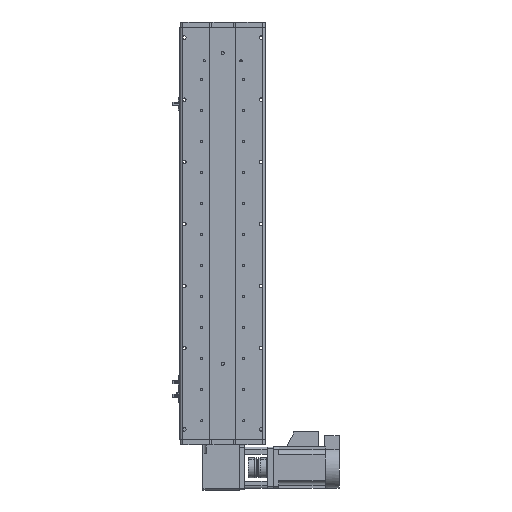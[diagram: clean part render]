
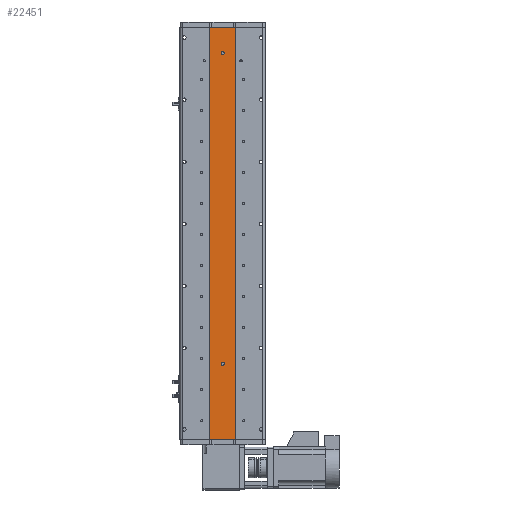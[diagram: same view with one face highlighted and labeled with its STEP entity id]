
A CAD part, front view. The second image highlights one B-rep face of the part: STEP entity #22451.
In plain terms, the highlighted planar face has unit normal (0, -1, 0).
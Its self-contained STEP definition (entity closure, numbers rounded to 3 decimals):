
#449 = DIRECTION ( 'NONE',  ( 0., 0., -1. ) ) ;
#1054 = CARTESIAN_POINT ( 'NONE',  ( 0., 1., 345.5 ) ) ;
#2542 = CARTESIAN_POINT ( 'NONE',  ( 0., 1., -251.5 ) ) ;
#2617 = FACE_BOUND ( 'NONE', #10831, .T. ) ;
#4003 = CARTESIAN_POINT ( 'NONE',  ( -25., 1., 398.5 ) ) ;
#4363 = EDGE_CURVE ( 'NONE', #16270, #6937, #39235, .T. ) ;
#4902 = CARTESIAN_POINT ( 'NONE',  ( 25., 1., -398.5 ) ) ;
#5575 = CARTESIAN_POINT ( 'NONE',  ( 25., 1., 398.5 ) ) ;
#6126 = DIRECTION ( 'NONE',  ( 0., 0., -1. ) ) ;
#6345 = DIRECTION ( 'NONE',  ( 0., 0., -1. ) ) ;
#6937 = VERTEX_POINT ( 'NONE', #36622 ) ;
#7306 = CARTESIAN_POINT ( 'NONE',  ( 0., 1., -254.5 ) ) ;
#7452 = ORIENTED_EDGE ( 'NONE', *, *, #25047, .F. ) ;
#7645 = AXIS2_PLACEMENT_3D ( 'NONE', #2542, #27609, #6126 ) ;
#7833 = CIRCLE ( 'NONE', #27038, 3. ) ;
#8660 = DIRECTION ( 'NONE',  ( 1., 0., 0. ) ) ;
#8971 = LINE ( 'NONE', #40550, #44900 ) ;
#10387 = DIRECTION ( 'NONE',  ( 0., -1., 0. ) ) ;
#10428 = EDGE_CURVE ( 'NONE', #28633, #45041, #14533, .T. ) ;
#10831 = EDGE_LOOP ( 'NONE', ( #44168, #33017 ) ) ;
#11496 = EDGE_CURVE ( 'NONE', #6937, #16270, #36410, .T. ) ;
#11658 = LINE ( 'NONE', #20631, #36899 ) ;
#12100 = VERTEX_POINT ( 'NONE', #4003 ) ;
#12147 = FACE_OUTER_BOUND ( 'NONE', #15954, .T. ) ;
#13228 = CARTESIAN_POINT ( 'NONE',  ( 25., 1., -398.5 ) ) ;
#14533 = LINE ( 'NONE', #4902, #32478 ) ;
#15954 = EDGE_LOOP ( 'NONE', ( #33542, #7452, #22540, #41785 ) ) ;
#16109 = EDGE_CURVE ( 'NONE', #20097, #17584, #7833, .T. ) ;
#16270 = VERTEX_POINT ( 'NONE', #1054 ) ;
#16378 = DIRECTION ( 'NONE',  ( 0., 1., 0. ) ) ;
#17584 = VERTEX_POINT ( 'NONE', #7306 ) ;
#18709 = DIRECTION ( 'NONE',  ( 0., -1., 0. ) ) ;
#19855 = PLANE ( 'NONE',  #39349 ) ;
#20097 = VERTEX_POINT ( 'NONE', #30171 ) ;
#20631 = CARTESIAN_POINT ( 'NONE',  ( -25., 1., 398.5 ) ) ;
#21877 = DIRECTION ( 'NONE',  ( 0., -1., 0. ) ) ;
#22451 = ADVANCED_FACE ( 'NONE', ( #39660, #2617, #12147 ), #19855, .F. ) ;
#22540 = ORIENTED_EDGE ( 'NONE', *, *, #29057, .F. ) ;
#23183 = CARTESIAN_POINT ( 'NONE',  ( 25., 1., 398.5 ) ) ;
#23703 = CIRCLE ( 'NONE', #7645, 3. ) ;
#24186 = VECTOR ( 'NONE', #33870, 1000. ) ;
#25047 = EDGE_CURVE ( 'NONE', #30881, #45041, #44437, .T. ) ;
#26090 = DIRECTION ( 'NONE',  ( 1., 0., 0. ) ) ;
#27038 = AXIS2_PLACEMENT_3D ( 'NONE', #43410, #21877, #449 ) ;
#27609 = DIRECTION ( 'NONE',  ( 0., -1., 0. ) ) ;
#28152 = ORIENTED_EDGE ( 'NONE', *, *, #11496, .F. ) ;
#28633 = VERTEX_POINT ( 'NONE', #44813 ) ;
#29057 = EDGE_CURVE ( 'NONE', #12100, #30881, #8971, .T. ) ;
#30171 = CARTESIAN_POINT ( 'NONE',  ( 0., 1., -248.5 ) ) ;
#30881 = VERTEX_POINT ( 'NONE', #44638 ) ;
#31852 = CARTESIAN_POINT ( 'NONE',  ( 0., 1., 348.5 ) ) ;
#32478 = VECTOR ( 'NONE', #8660, 1000. ) ;
#33017 = ORIENTED_EDGE ( 'NONE', *, *, #16109, .F. ) ;
#33235 = EDGE_CURVE ( 'NONE', #17584, #20097, #23703, .T. ) ;
#33542 = ORIENTED_EDGE ( 'NONE', *, *, #10428, .T. ) ;
#33870 = DIRECTION ( 'NONE',  ( 0., 0., -1. ) ) ;
#34725 = EDGE_LOOP ( 'NONE', ( #45132, #28152 ) ) ;
#35485 = DIRECTION ( 'NONE',  ( 0., 0., -1. ) ) ;
#36410 = CIRCLE ( 'NONE', #41912, 3. ) ;
#36622 = CARTESIAN_POINT ( 'NONE',  ( 0., 1., 351.5 ) ) ;
#36899 = VECTOR ( 'NONE', #6345, 1000. ) ;
#39235 = CIRCLE ( 'NONE', #40089, 3. ) ;
#39349 = AXIS2_PLACEMENT_3D ( 'NONE', #5575, #16378, #41495 ) ;
#39660 = FACE_BOUND ( 'NONE', #34725, .T. ) ;
#40089 = AXIS2_PLACEMENT_3D ( 'NONE', #31852, #10387, #35485 ) ;
#40206 = CARTESIAN_POINT ( 'NONE',  ( 0., 1., 348.5 ) ) ;
#40550 = CARTESIAN_POINT ( 'NONE',  ( 25., 1., 398.5 ) ) ;
#41495 = DIRECTION ( 'NONE',  ( 0., 0., 1. ) ) ;
#41785 = ORIENTED_EDGE ( 'NONE', *, *, #44459, .T. ) ;
#41912 = AXIS2_PLACEMENT_3D ( 'NONE', #40206, #18709, #43802 ) ;
#43410 = CARTESIAN_POINT ( 'NONE',  ( 0., 1., -251.5 ) ) ;
#43802 = DIRECTION ( 'NONE',  ( 0., 0., -1. ) ) ;
#44168 = ORIENTED_EDGE ( 'NONE', *, *, #33235, .F. ) ;
#44437 = LINE ( 'NONE', #23183, #24186 ) ;
#44459 = EDGE_CURVE ( 'NONE', #12100, #28633, #11658, .T. ) ;
#44638 = CARTESIAN_POINT ( 'NONE',  ( 25., 1., 398.5 ) ) ;
#44813 = CARTESIAN_POINT ( 'NONE',  ( -25., 1., -398.5 ) ) ;
#44900 = VECTOR ( 'NONE', #26090, 1000. ) ;
#45041 = VERTEX_POINT ( 'NONE', #13228 ) ;
#45132 = ORIENTED_EDGE ( 'NONE', *, *, #4363, .F. ) ;
